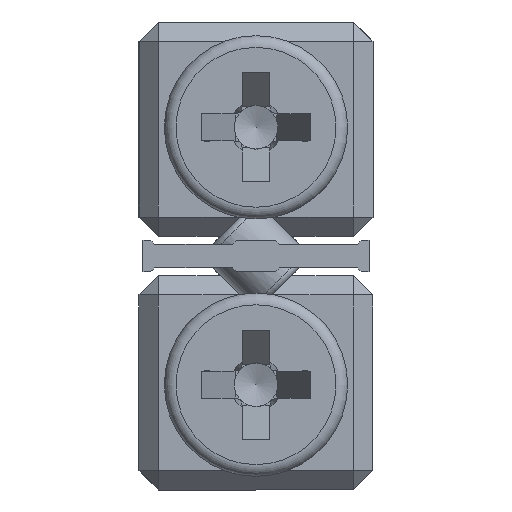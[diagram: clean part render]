
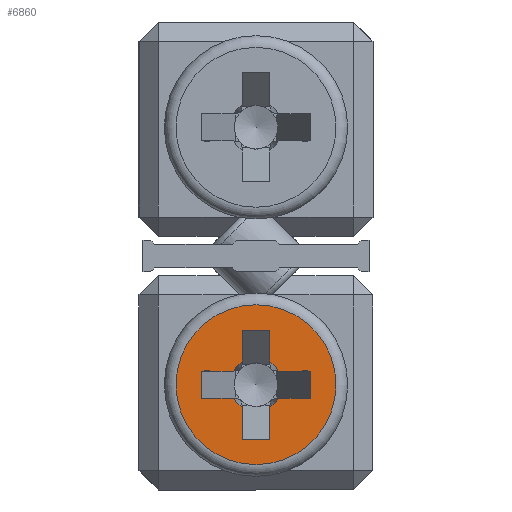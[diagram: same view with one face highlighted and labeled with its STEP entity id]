
A CAD part, left-side view. The second image highlights one B-rep face of the part: STEP entity #6860.
In plain terms, the highlighted planar face has unit normal (-1, 0, 0).
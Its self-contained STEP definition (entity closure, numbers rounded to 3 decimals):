
#273 = CARTESIAN_POINT ( 'NONE',  ( -54., -0.35, 1.3 ) ) ;
#279 = VECTOR ( 'NONE', #12703, 1000. ) ;
#281 = CARTESIAN_POINT ( 'NONE',  ( -54., 0., 2.7 ) ) ;
#965 = ORIENTED_EDGE ( 'NONE', *, *, #10723, .T. ) ;
#1197 = DIRECTION ( 'NONE',  ( 0., 0., 1. ) ) ;
#1381 = CARTESIAN_POINT ( 'NONE',  ( -54., 0.35, 3.281 ) ) ;
#1653 = CARTESIAN_POINT ( 'NONE',  ( -54., 0.35, 1.3 ) ) ;
#2292 = DIRECTION ( 'NONE',  ( 0., 1., 0. ) ) ;
#2437 = CARTESIAN_POINT ( 'NONE',  ( -54., -0.35, 4.1 ) ) ;
#2537 = LINE ( 'NONE', #2437, #12869 ) ;
#2557 = AXIS2_PLACEMENT_3D ( 'NONE', #5136, #11711, #18329 ) ;
#2634 = EDGE_CURVE ( 'NONE', #5293, #14326, #16081, .T. ) ;
#2680 = CARTESIAN_POINT ( 'NONE',  ( -54., 0.35, 4.1 ) ) ;
#2700 = VERTEX_POINT ( 'NONE', #1381 ) ;
#2723 = VERTEX_POINT ( 'NONE', #2680 ) ;
#2854 = ORIENTED_EDGE ( 'NONE', *, *, #18613, .F. ) ;
#2896 = VERTEX_POINT ( 'NONE', #19221 ) ;
#2917 = DIRECTION ( 'NONE',  ( 0., 0., -1. ) ) ;
#2940 = VECTOR ( 'NONE', #16483, 1000. ) ;
#2979 = VERTEX_POINT ( 'NONE', #3842 ) ;
#3165 = EDGE_CURVE ( 'NONE', #2700, #2723, #4899, .T. ) ;
#3197 = DIRECTION ( 'NONE',  ( -1., 0., 0. ) ) ;
#3253 = CARTESIAN_POINT ( 'NONE',  ( -54., -1.4, 3.05 ) ) ;
#3295 = VECTOR ( 'NONE', #14816, 1000. ) ;
#3354 = VERTEX_POINT ( 'NONE', #7064 ) ;
#3573 = DIRECTION ( 'NONE',  ( -1., 0., 0. ) ) ;
#3690 = VECTOR ( 'NONE', #2292, 1000. ) ;
#3706 = AXIS2_PLACEMENT_3D ( 'NONE', #12306, #3573, #16772 ) ;
#3731 = ORIENTED_EDGE ( 'NONE', *, *, #20896, .T. ) ;
#3842 = CARTESIAN_POINT ( 'NONE',  ( -54., 0.35, 2.119 ) ) ;
#3912 = CIRCLE ( 'NONE', #2557, 0.678 ) ;
#3955 = CARTESIAN_POINT ( 'NONE',  ( -54., 1.4, 3.05 ) ) ;
#4655 = VECTOR ( 'NONE', #17732, 1000. ) ;
#4866 = CARTESIAN_POINT ( 'NONE',  ( -54., 1.4, 3.05 ) ) ;
#4877 = DIRECTION ( 'NONE',  ( 0., 0., -1. ) ) ;
#4899 = LINE ( 'NONE', #9863, #2940 ) ;
#4971 = EDGE_LOOP ( 'NONE', ( #7675, #6742, #9529, #3731, #6140, #9423, #9511, #10316, #19778, #7025, #2854, #11016, #5620, #15572, #16311, #13883 ) ) ;
#5136 = CARTESIAN_POINT ( 'NONE',  ( -54., 0., 2.7 ) ) ;
#5140 = CARTESIAN_POINT ( 'NONE',  ( -54., -0.35, 4.1 ) ) ;
#5141 = VERTEX_POINT ( 'NONE', #5140 ) ;
#5293 = VERTEX_POINT ( 'NONE', #18969 ) ;
#5332 = VERTEX_POINT ( 'NONE', #6100 ) ;
#5409 = CARTESIAN_POINT ( 'NONE',  ( -54., 0., 2.7 ) ) ;
#5620 = ORIENTED_EDGE ( 'NONE', *, *, #15430, .F. ) ;
#5987 = CARTESIAN_POINT ( 'NONE',  ( -54., 0.35, 1.3 ) ) ;
#6088 = EDGE_CURVE ( 'NONE', #16607, #20795, #15894, .T. ) ;
#6100 = CARTESIAN_POINT ( 'NONE',  ( -54., -0.35, 3.281 ) ) ;
#6140 = ORIENTED_EDGE ( 'NONE', *, *, #8607, .F. ) ;
#6158 = EDGE_CURVE ( 'NONE', #7813, #6226, #10794, .T. ) ;
#6226 = VERTEX_POINT ( 'NONE', #16617 ) ;
#6289 = PLANE ( 'NONE',  #12215 ) ;
#6629 = CARTESIAN_POINT ( 'NONE',  ( -54., 0.35, 1.3 ) ) ;
#6742 = ORIENTED_EDGE ( 'NONE', *, *, #6088, .T. ) ;
#6785 = CARTESIAN_POINT ( 'NONE',  ( -54., -1.4, 2.35 ) ) ;
#6860 = ADVANCED_FACE ( 'NONE', ( #17868, #20994 ), #6289, .F. ) ;
#6916 = DIRECTION ( 'NONE',  ( -1., 0., 0. ) ) ;
#6925 = LINE ( 'NONE', #1653, #3295 ) ;
#7025 = ORIENTED_EDGE ( 'NONE', *, *, #3165, .T. ) ;
#7064 = CARTESIAN_POINT ( 'NONE',  ( -54., -0.581, 3.05 ) ) ;
#7290 = DIRECTION ( 'NONE',  ( 0., 0., -1. ) ) ;
#7298 = VECTOR ( 'NONE', #7290, 1000. ) ;
#7339 = DIRECTION ( 'NONE',  ( 0., 1., 0. ) ) ;
#7357 = AXIS2_PLACEMENT_3D ( 'NONE', #281, #3197, #18219 ) ;
#7675 = ORIENTED_EDGE ( 'NONE', *, *, #9273, .F. ) ;
#7813 = VERTEX_POINT ( 'NONE', #12952 ) ;
#8607 = EDGE_CURVE ( 'NONE', #5293, #2979, #13632, .T. ) ;
#9057 = EDGE_CURVE ( 'NONE', #2700, #6226, #9448, .T. ) ;
#9273 = EDGE_CURVE ( 'NONE', #16607, #14807, #9802, .T. ) ;
#9386 = CARTESIAN_POINT ( 'NONE',  ( -54., 0., 2.7 ) ) ;
#9403 = VERTEX_POINT ( 'NONE', #11635 ) ;
#9423 = ORIENTED_EDGE ( 'NONE', *, *, #2634, .T. ) ;
#9448 = CIRCLE ( 'NONE', #14979, 0.678 ) ;
#9511 = ORIENTED_EDGE ( 'NONE', *, *, #20629, .F. ) ;
#9529 = ORIENTED_EDGE ( 'NONE', *, *, #17321, .F. ) ;
#9585 = CARTESIAN_POINT ( 'NONE',  ( -54., 1.4, 2.35 ) ) ;
#9802 = CIRCLE ( 'NONE', #18110, 0.678 ) ;
#9863 = CARTESIAN_POINT ( 'NONE',  ( -54., 0.35, 1.3 ) ) ;
#9990 = VERTEX_POINT ( 'NONE', #5987 ) ;
#10316 = ORIENTED_EDGE ( 'NONE', *, *, #6158, .T. ) ;
#10668 = EDGE_CURVE ( 'NONE', #9403, #14807, #20112, .T. ) ;
#10723 = EDGE_CURVE ( 'NONE', #2896, #2896, #11976, .T. ) ;
#10794 = LINE ( 'NONE', #11107, #4655 ) ;
#11016 = ORIENTED_EDGE ( 'NONE', *, *, #15540, .T. ) ;
#11107 = CARTESIAN_POINT ( 'NONE',  ( -54., 1.4, 3.05 ) ) ;
#11635 = CARTESIAN_POINT ( 'NONE',  ( -54., -1.4, 2.35 ) ) ;
#11711 = DIRECTION ( 'NONE',  ( -1., 0., 0. ) ) ;
#11976 = CIRCLE ( 'NONE', #3706, 2.05 ) ;
#12092 = CARTESIAN_POINT ( 'NONE',  ( -54., -1.4, 2.35 ) ) ;
#12144 = LINE ( 'NONE', #3955, #7298 ) ;
#12215 = AXIS2_PLACEMENT_3D ( 'NONE', #21307, #19267, #4877 ) ;
#12306 = CARTESIAN_POINT ( 'NONE',  ( -54., 0., 2.7 ) ) ;
#12703 = DIRECTION ( 'NONE',  ( 0., 1., 0. ) ) ;
#12869 = VECTOR ( 'NONE', #15619, 1000. ) ;
#12935 = DIRECTION ( 'NONE',  ( -1., 0., 0. ) ) ;
#12952 = CARTESIAN_POINT ( 'NONE',  ( -54., 1.4, 3.05 ) ) ;
#13632 = CIRCLE ( 'NONE', #7357, 0.678 ) ;
#13720 = LINE ( 'NONE', #18925, #14828 ) ;
#13883 = ORIENTED_EDGE ( 'NONE', *, *, #10668, .T. ) ;
#14145 = CARTESIAN_POINT ( 'NONE',  ( -54., -0.581, 2.35 ) ) ;
#14258 = CARTESIAN_POINT ( 'NONE',  ( -54., -0.35, 4.1 ) ) ;
#14326 = VERTEX_POINT ( 'NONE', #9585 ) ;
#14807 = VERTEX_POINT ( 'NONE', #14145 ) ;
#14816 = DIRECTION ( 'NONE',  ( 0., -1., 0. ) ) ;
#14828 = VECTOR ( 'NONE', #7339, 1000. ) ;
#14945 = VECTOR ( 'NONE', #16742, 1000. ) ;
#14979 = AXIS2_PLACEMENT_3D ( 'NONE', #5409, #6916, #16980 ) ;
#15000 = EDGE_CURVE ( 'NONE', #9403, #18063, #18580, .T. ) ;
#15430 = EDGE_CURVE ( 'NONE', #3354, #5332, #3912, .T. ) ;
#15540 = EDGE_CURVE ( 'NONE', #5141, #5332, #2537, .T. ) ;
#15572 = ORIENTED_EDGE ( 'NONE', *, *, #18017, .T. ) ;
#15619 = DIRECTION ( 'NONE',  ( 0., 0., -1. ) ) ;
#15894 = LINE ( 'NONE', #14258, #20533 ) ;
#16081 = LINE ( 'NONE', #19318, #279 ) ;
#16232 = DIRECTION ( 'NONE',  ( 0., -1., 0. ) ) ;
#16311 = ORIENTED_EDGE ( 'NONE', *, *, #15000, .F. ) ;
#16483 = DIRECTION ( 'NONE',  ( 0., 0., 1. ) ) ;
#16607 = VERTEX_POINT ( 'NONE', #19075 ) ;
#16617 = CARTESIAN_POINT ( 'NONE',  ( -54., 0.581, 3.05 ) ) ;
#16742 = DIRECTION ( 'NONE',  ( 0., 0., 1. ) ) ;
#16772 = DIRECTION ( 'NONE',  ( 0., 0., -1. ) ) ;
#16980 = DIRECTION ( 'NONE',  ( 0., 0., 1. ) ) ;
#17066 = VECTOR ( 'NONE', #16232, 1000. ) ;
#17321 = EDGE_CURVE ( 'NONE', #9990, #20795, #6925, .T. ) ;
#17732 = DIRECTION ( 'NONE',  ( 0., -1., 0. ) ) ;
#17868 = FACE_OUTER_BOUND ( 'NONE', #20330, .T. ) ;
#18017 = EDGE_CURVE ( 'NONE', #3354, #18063, #18271, .T. ) ;
#18037 = VECTOR ( 'NONE', #19827, 1000. ) ;
#18063 = VERTEX_POINT ( 'NONE', #3253 ) ;
#18110 = AXIS2_PLACEMENT_3D ( 'NONE', #9386, #12935, #1197 ) ;
#18219 = DIRECTION ( 'NONE',  ( 0., 0., 1. ) ) ;
#18271 = LINE ( 'NONE', #4866, #17066 ) ;
#18329 = DIRECTION ( 'NONE',  ( 0., 0., 1. ) ) ;
#18580 = LINE ( 'NONE', #6785, #14945 ) ;
#18613 = EDGE_CURVE ( 'NONE', #5141, #2723, #13720, .T. ) ;
#18925 = CARTESIAN_POINT ( 'NONE',  ( -54., -0.35, 4.1 ) ) ;
#18969 = CARTESIAN_POINT ( 'NONE',  ( -54., 0.581, 2.35 ) ) ;
#19075 = CARTESIAN_POINT ( 'NONE',  ( -54., -0.35, 2.119 ) ) ;
#19221 = CARTESIAN_POINT ( 'NONE',  ( -54., 0., 0.65 ) ) ;
#19267 = DIRECTION ( 'NONE',  ( 1., 0., 0. ) ) ;
#19318 = CARTESIAN_POINT ( 'NONE',  ( -54., -1.4, 2.35 ) ) ;
#19778 = ORIENTED_EDGE ( 'NONE', *, *, #9057, .F. ) ;
#19827 = DIRECTION ( 'NONE',  ( 0., 0., 1. ) ) ;
#20112 = LINE ( 'NONE', #12092, #3690 ) ;
#20330 = EDGE_LOOP ( 'NONE', ( #965 ) ) ;
#20533 = VECTOR ( 'NONE', #2917, 1000. ) ;
#20629 = EDGE_CURVE ( 'NONE', #7813, #14326, #12144, .T. ) ;
#20795 = VERTEX_POINT ( 'NONE', #273 ) ;
#20896 = EDGE_CURVE ( 'NONE', #9990, #2979, #21234, .T. ) ;
#20994 = FACE_BOUND ( 'NONE', #4971, .T. ) ;
#21234 = LINE ( 'NONE', #6629, #18037 ) ;
#21307 = CARTESIAN_POINT ( 'NONE',  ( -54., 2.35, 2.7 ) ) ;
